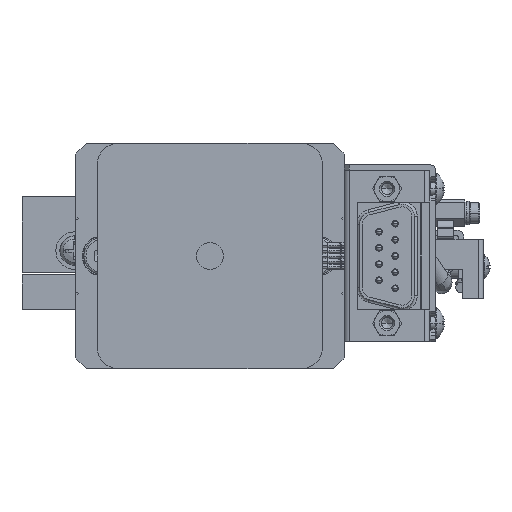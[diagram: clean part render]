
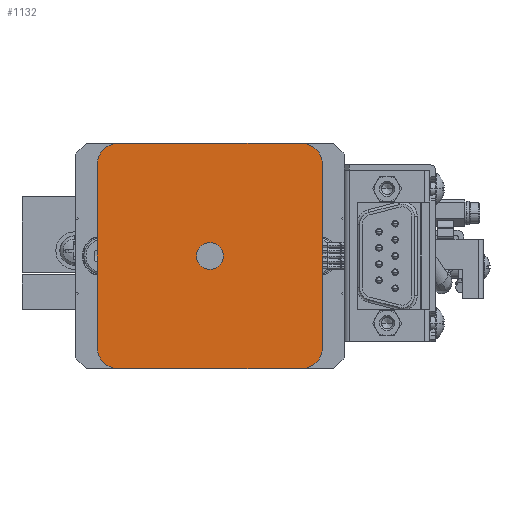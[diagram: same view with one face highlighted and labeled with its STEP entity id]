
A CAD part, left-side view. The second image highlights one B-rep face of the part: STEP entity #1132.
In plain terms, the highlighted planar face has unit normal (-1, 0, 0).
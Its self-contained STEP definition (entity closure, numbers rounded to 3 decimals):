
#1132=ADVANCED_FACE('',(#13369,#13370),#13368,.T.);
#13368=PLANE('',#38683);
#13369=FACE_OUTER_BOUND('',#38684,.T.);
#13370=FACE_BOUND('',#38685,.T.);
#38680=CARTESIAN_POINT('',(-133.,25.2,-15.2));
#38681=DIRECTION('',(-1.,0.,0.));
#38682=DIRECTION('',(0.,-1.,0.));
#38683=AXIS2_PLACEMENT_3D('',#38680,#38681,#38682);
#38684=EDGE_LOOP('',(#56692,#56693,#56694,#56695,#56696,#56697,#56698,#56699));
#38685=EDGE_LOOP('',(#56700,#56701));
#56692=ORIENTED_EDGE('',*,*,#68348,.F.);
#56693=ORIENTED_EDGE('',*,*,#68435,.T.);
#56694=ORIENTED_EDGE('',*,*,#68416,.F.);
#56695=ORIENTED_EDGE('',*,*,#68436,.T.);
#56696=ORIENTED_EDGE('',*,*,#68390,.F.);
#56697=ORIENTED_EDGE('',*,*,#68437,.T.);
#56698=ORIENTED_EDGE('',*,*,#68433,.F.);
#56699=ORIENTED_EDGE('',*,*,#68438,.T.);
#56700=ORIENTED_EDGE('',*,*,#68439,.F.);
#56701=ORIENTED_EDGE('',*,*,#68440,.F.);
#68348=EDGE_CURVE('',#90893,#90900,#90901,.T.);
#68390=EDGE_CURVE('',#91178,#91185,#91186,.T.);
#68416=EDGE_CURVE('',#91360,#91361,#91362,.T.);
#68433=EDGE_CURVE('',#91470,#91477,#91478,.T.);
#68435=EDGE_CURVE('',#90893,#91361,#91490,.T.);
#68436=EDGE_CURVE('',#91360,#91185,#91496,.T.);
#68437=EDGE_CURVE('',#91178,#91477,#91502,.T.);
#68438=EDGE_CURVE('',#91470,#90900,#91508,.T.);
#68439=EDGE_CURVE('',#91514,#91515,#91516,.T.);
#68440=EDGE_CURVE('',#91515,#91514,#91522,.T.);
#90893=VERTEX_POINT('',#129958);
#90900=VERTEX_POINT('',#129962);
#90901=LINE('',#129963,#129964);
#91178=VERTEX_POINT('',#130128);
#91185=VERTEX_POINT('',#130132);
#91186=LINE('',#130133,#130134);
#91360=VERTEX_POINT('',#130244);
#91361=VERTEX_POINT('',#130245);
#91362=LINE('',#130246,#130247);
#91470=VERTEX_POINT('',#130316);
#91477=VERTEX_POINT('',#130320);
#91478=LINE('',#130321,#130322);
#91490=CIRCLE('',#130330,4.);
#91496=CIRCLE('',#130334,4.);
#91502=CIRCLE('',#130338,4.);
#91508=CIRCLE('',#130342,4.);
#91514=VERTEX_POINT('',#130343);
#91515=VERTEX_POINT('',#130344);
#91516=CIRCLE('',#130348,2.5);
#91522=CIRCLE('',#130352,2.5);
#129958=CARTESIAN_POINT('',(-133.,-17.,-11.));
#129962=CARTESIAN_POINT('',(-133.,17.,-11.));
#129963=CARTESIAN_POINT('',(-133.,-17.,-11.));
#129964=VECTOR('',#129965,34.);
#129965=DIRECTION('',(0.,1.,0.));
#130128=CARTESIAN_POINT('',(-133.,17.,31.));
#130132=CARTESIAN_POINT('',(-133.,-17.,31.));
#130133=CARTESIAN_POINT('',(-133.,17.,31.));
#130134=VECTOR('',#130135,34.);
#130135=DIRECTION('',(0.,-1.,0.));
#130244=CARTESIAN_POINT('',(-133.,-21.,27.));
#130245=CARTESIAN_POINT('',(-133.,-21.,-7.));
#130246=CARTESIAN_POINT('',(-133.,-21.,27.));
#130247=VECTOR('',#130248,34.);
#130248=DIRECTION('',(0.,0.,-1.));
#130316=CARTESIAN_POINT('',(-133.,21.,-7.));
#130320=CARTESIAN_POINT('',(-133.,21.,27.));
#130321=CARTESIAN_POINT('',(-133.,21.,-7.));
#130322=VECTOR('',#130323,34.);
#130323=DIRECTION('',(0.,0.,1.));
#130327=CARTESIAN_POINT('',(-133.,-17.,-7.));
#130328=DIRECTION('',(-1.,0.,0.));
#130329=DIRECTION('',(0.,1.,0.));
#130330=AXIS2_PLACEMENT_3D('',#130327,#130328,#130329);
#130331=CARTESIAN_POINT('',(-133.,-17.,27.));
#130332=DIRECTION('',(-1.,0.,0.));
#130333=DIRECTION('',(0.,1.,0.));
#130334=AXIS2_PLACEMENT_3D('',#130331,#130332,#130333);
#130335=CARTESIAN_POINT('',(-133.,17.,27.));
#130336=DIRECTION('',(-1.,0.,0.));
#130337=DIRECTION('',(0.,1.,0.));
#130338=AXIS2_PLACEMENT_3D('',#130335,#130336,#130337);
#130339=CARTESIAN_POINT('',(-133.,17.,-7.));
#130340=DIRECTION('',(-1.,0.,0.));
#130341=DIRECTION('',(0.,1.,0.));
#130342=AXIS2_PLACEMENT_3D('',#130339,#130340,#130341);
#130343=CARTESIAN_POINT('',(-133.,2.5,10.));
#130344=CARTESIAN_POINT('',(-133.,-2.5,10.));
#130345=CARTESIAN_POINT('',(-133.,0.,10.));
#130346=DIRECTION('',(-1.,0.,0.));
#130347=DIRECTION('',(0.,-1.,0.));
#130348=AXIS2_PLACEMENT_3D('',#130345,#130346,#130347);
#130349=CARTESIAN_POINT('',(-133.,0.,10.));
#130350=DIRECTION('',(-1.,0.,0.));
#130351=DIRECTION('',(0.,-1.,0.));
#130352=AXIS2_PLACEMENT_3D('',#130349,#130350,#130351);
